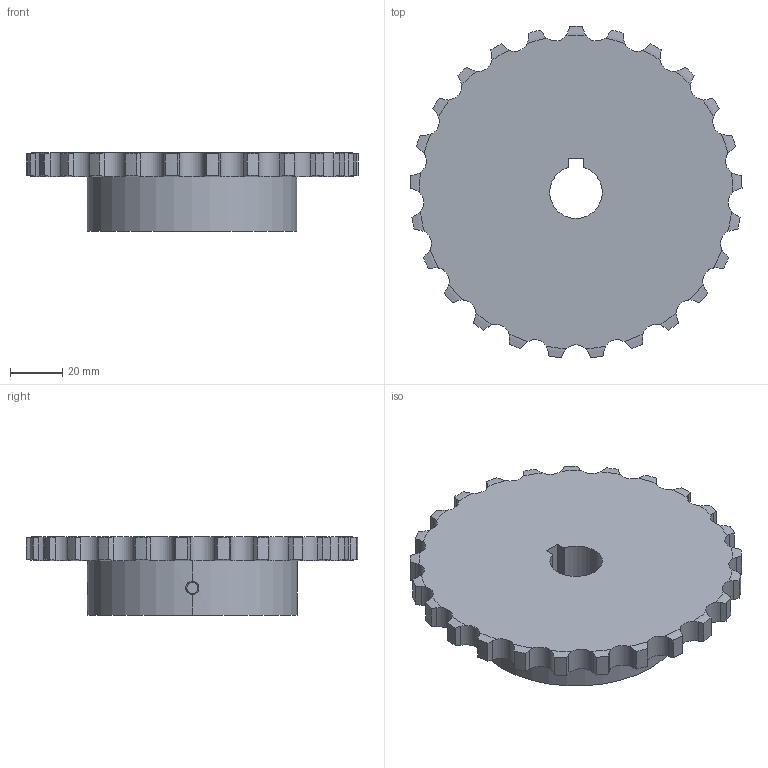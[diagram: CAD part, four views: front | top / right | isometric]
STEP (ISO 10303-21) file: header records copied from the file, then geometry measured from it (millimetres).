
FILE_DESCRIPTION((''),'2;1');
FILE_NAME('510-301-2025_PRT','2021-02-13T',('Brieden'),('Brieden'),'PRO/ENGINEER BY PARAMETRIC TECHNOLOGY CORPORATION, 2010160','PRO/ENGINEER BY PARAMETRIC TECHNOLOGY CORPORATION, 2010160','');
FILE_SCHEMA(('AUTOMOTIVE_DESIGN { 1 0 10303 214 1 1 1 1 }'));
Length unit declared in the file: millimetre
Products named in the file (1): 510-301-2025_PRT
Bounding box: 126.62 x 126.41 x 30 mm (x, y, z)
Volume: 199854.7 mm3; surface area: 34705.5 mm2
Topology: 1 solids, 1 shells, 171 faces, 495 edges, 328 vertices
Faces by surface type: cylinder 107, torus 50, plane 8, bspline 6
Entity records: 8417 total; most frequent: CARTESIAN_POINT 2636, ORIENTED_EDGE 990, DIRECTION 773, PRESENTATION_STYLE_ASSIGNMENT 496, STYLED_ITEM 496, CURVE_STYLE 495, EDGE_CURVE 495, VERTEX_POINT 328
